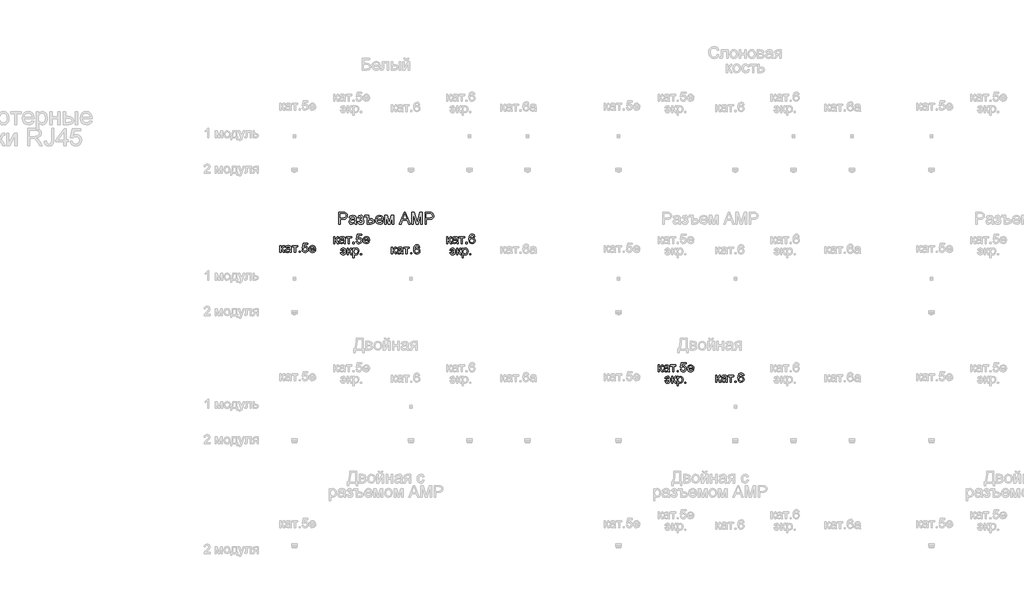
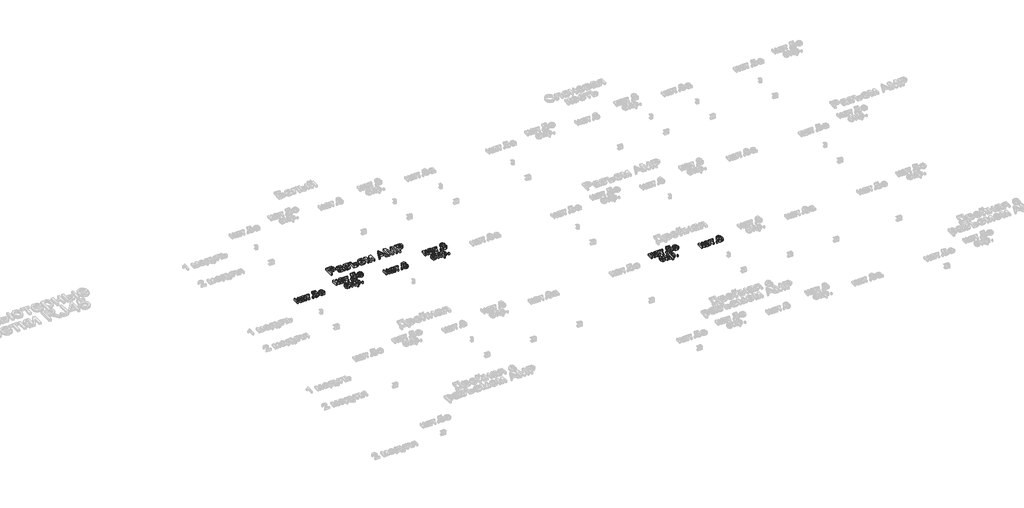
# One storey, part 26 of 47: 7 proxies.
"""IFC4 building model written with IfcOpenShell, lengths in millimetres."""

from ifc_helpers import new_model, si_unit, origin, origin_with_axes, place, context, project, spatial, polyline, outline, extrude, element, save

model = new_model("IFC4")

# Units and contexts
model_context = context("Model", 3, world=origin())
ifc_project = project(units=[si_unit("LENGTHUNIT", "METRE", prefix="MILLI")], contexts=[model_context])

# Site, building, storey
site = spatial("IfcSite", under=ifc_project)
building = spatial("IfcBuilding", under=site)
storey = spatial("IfcBuildingStorey", under=building, Name="Этаж 01", Elevation=0.0)

# Proxies
placement = place(None, origin())
element("IfcBuildingElementProxy", 1, Name="100 мм Arial", ObjectType="100 мм Arial", at=placement, inside=storey, context=model_context, shape_type="SweptSolid", body=[
    extrude(outline(polyline([(384.3904734, -21070.9026382), (384.3904734, -20970.4463281), (421.6201313, -20970.4463281), (436.6297168, -20971.4028213), (448.8311363, -20976.0994481), (456.7405992, -20985.8115327), (459.732706, -20999.5090057), (457.7124208, -21011.3486746), (451.6515649, -21021.2140434), (440.3177338, -21027.8727075), (422.4785227, -21030.0922622), (396.9475122, -21030.0922622), (396.9475122, -21070.9026382), (384.3904734, -21070.9026382)]), holes=[polyline([(396.9475122, -21017.5352234), (423.2142867, -21017.5352234), (441.7064883, -21012.9244358), (445.8083725, -21007.375549), (447.1756673, -20999.9504641), (443.9505685, -20989.5516664), (435.4770198, -20983.8617582), (422.9199811, -20983.0033668), (396.9475122, -20983.0033668), (396.9475122, -21017.5352234)])]), origin_with_axes(), (0.0, 0.0, 1.0), 20.0),
    extrude(outline(polyline([(522.5178999, -21061.4848591), (510.3410059, -21069.995196), (496.8887876, -21072.4722681), (486.3949537, -21070.982346), (478.6541033, -21066.5125797), (473.8808344, -21059.7251569), (472.2897448, -21051.2822651), (474.6932405, -21041.3494513), (481.0085481, -21034.1389642), (489.8009278, -21030.0186858), (500.6657094, -21028.1302249), (522.4443235, -21023.8137428), (522.5178999, -21021.0178397), (519.0598091, -21011.7472134), (505.1783952, -21008.1174444), (492.4742036, -21010.5332028), (486.4164134, -21019.1048533), (473.8593747, -21017.5352234), (479.2917655, -21005.2724903), (490.2301234, -20998.0865286), (506.797076, -20995.5604056), (522.0151278, -20997.792223), (530.6113038, -21003.3962921), (534.461802, -21011.9188917), (535.0749387, -21022.9063006), (535.0749387, -21038.5290226), (535.7126008, -21060.344425), (538.2141984, -21070.9026382), (525.6571596, -21070.9026382), (522.5178999, -21061.4848591)]), holes=[polyline([(522.5178999, -21036.3707816), (502.2598647, -21040.2212798), (491.4563968, -21042.2568935), (486.5635662, -21045.5678315), (484.8467836, -21050.3993484), (488.5869172, -21057.1929025), (499.5620634, -21059.9152293), (512.266255, -21056.9108597), (520.4577607, -21049.6390589), (522.4443235, -21039.9269742), (522.5178999, -21036.3707816)])]), origin_with_axes(), (0.0, 0.0, 1.0), 20.0),
    extrude(outline(polyline([(569.6067953, -21037.9404114), (569.6067953, -21025.3833727), (579.5150837, -21024.8928634), (584.5182788, -21022.2809012), (586.8727236, -21016.8239849), (583.7212012, -21010.4841519), (575.5910091, -21008.1174444), (567.1910368, -21010.4718891), (561.758646, -21017.5352234), (547.6319774, -21015.9655936), (557.074282, -21000.6617026), (574.3156848, -20995.5604056), (584.8125844, -20997.114707), (592.7588355, -21001.7776113), (597.7620306, -21008.5987567), (599.4297624, -21016.6277812), (597.0569235, -21024.4268795), (589.9384069, -21030.4601442), (598.2402772, -21038.283768), (600.9993922, -21049.540957), (599.248887, -21058.7839922), (593.9973716, -21066.1079095), (585.600465, -21070.8811784), (574.4137867, -21072.4722681), (563.472363, -21071.0007401), (555.0999819, -21066.5861561), (549.2966435, -21059.2285162), (546.0623476, -21048.9278204), (560.1890162, -21047.3581905), (565.8543989, -21056.6288168), (575.6155345, -21059.9152293), (584.7880589, -21056.7637069), (588.4423534, -21048.7070912), (586.1737478, -21042.1097407), (581.3422309, -21038.5780736), (572.0593419, -21037.8668351), (569.6067953, -21037.9404114)])), origin_with_axes(), (0.0, 0.0, 1.0), 20.0),
    extrude(outline(polyline([(610.4171713, -20997.1300355), (643.379398, -20997.1300355), (643.379398, -21025.3833727), (658.9530692, -21025.3833727), (673.2391533, -21027.044973), (682.9880262, -21032.0297741), (688.5982266, -21039.4242022), (690.4682934, -21048.3146837), (688.6472775, -21057.3921719), (683.1842299, -21064.6118561), (674.1649897, -21069.3299427), (661.6753959, -21070.9026382), (630.8223593, -21070.9026382), (630.8223593, -21009.6870742), (610.4171713, -21009.6870742), (610.4171713, -20997.1300355)]), holes=[polyline([(643.379398, -21058.3455994), (656.3043188, -21058.3455994), (672.9938987, -21055.929841), (677.9112547, -21048.1675309), (673.7051372, -21040.6136873), (657.9475251, -21037.9404114), (643.379398, -21037.9404114), (643.379398, -21058.3455994)])]), origin_with_axes(), (0.0, 0.0, 1.0), 20.0),
    extrude(outline(polyline([(756.2455942, -21048.9278204), (768.5573783, -21050.4974502), (764.1213345, -21059.7742079), (757.0426718, -21066.7087835), (747.4808056, -21071.0313969), (735.5951515, -21072.4722681), (720.8614776, -21069.9859989), (709.5245808, -21062.5271915), (702.2956996, -21050.5802237), (699.8860725, -21034.6294735), (702.320225, -21018.1422287), (709.6226826, -21005.8120505), (720.8062953, -20998.1233168), (734.883913, -20995.5604056), (748.5231379, -20998.1171855), (759.4216421, -21005.7875251), (766.5677498, -21018.0931778), (768.9497857, -21034.5558971), (768.8762093, -21037.9404114), (712.4431113, -21037.9404114), (714.6166807, -21047.3397964), (719.6658611, -21054.2498466), (726.9529903, -21058.4988836), (735.8404062, -21059.9152293), (748.1521903, -21057.2910044), (756.2455942, -21048.9278204)]), holes=[polyline([(712.4431113, -21025.3833727), (756.392747, -21025.3833727), (751.3650264, -21014.0035563), (744.0441747, -21009.5889724), (734.834862, -21008.1174444), (719.3715555, -21012.8140712), (714.5063161, -21018.30471), (712.4431113, -21025.3833727)])]), origin_with_axes(), (0.0, 0.0, 1.0), 20.0),
    extrude(outline(polyline([(781.5068245, -20997.1300355), (803.1137603, -20997.1300355), (819.766552, -21056.1873584), (837.7191934, -20997.1300355), (858.418687, -20997.1300355), (858.418687, -21070.9026382), (845.8616482, -21070.9026382), (845.8616482, -21011.5019587), (827.810905, -21070.9026382), (811.3297916, -21070.9026382), (794.0638633, -21008.6570046), (794.0638633, -21070.9026382), (781.5068245, -21070.9026382), (781.5068245, -20997.1300355)])), origin_with_axes(), (0.0, 0.0, 1.0), 20.0),
    extrude(outline(polyline([(906.3659737, -21070.9026382), (946.4651111, -20970.4463281), (957.1582145, -20970.4463281), (997.2573519, -21070.9026382), (983.9890746, -21070.9026382), (972.4866309, -21039.5100413), (931.1121692, -21039.5100413), (919.634251, -21070.9026382), (906.3659737, -21070.9026382)]), holes=[polyline([(935.7229569, -21026.9530025), (967.9003687, -21026.9530025), (958.8504716, -21002.2558579), (951.8116628, -20983.0033668), (945.5576689, -21000.0976169), (935.7229569, -21026.9530025)])]), origin_with_axes(), (0.0, 0.0, 1.0), 20.0),
    extrude(outline(polyline([(1010.672782, -21070.9026382), (1010.672782, -20970.4463281), (1032.2797179, -20970.4463281), (1052.8320587, -21041.2513494), (1056.9768625, -21056.0402056), (1061.4650228, -21040.0250761), (1081.6740071, -20970.4463281), (1103.2809429, -20970.4463281), (1103.2809429, -21070.9026382), (1090.7239042, -21070.9026382), (1090.7239042, -20983.0033668), (1065.4871993, -21070.9026382), (1048.4665257, -21070.9026382), (1023.2298208, -20983.0033668), (1023.2298208, -21070.9026382), (1010.672782, -21070.9026382)])), origin_with_axes(), (0.0, 0.0, 1.0), 20.0),
    extrude(outline(polyline([(1125.2557608, -21070.9026382), (1125.2557608, -20970.4463281), (1162.4854187, -20970.4463281), (1177.4950041, -20971.4028213), (1189.6964236, -20976.0994481), (1197.6058865, -20985.8115327), (1200.5979934, -20999.5090057), (1198.5777081, -21011.3486746), (1192.5168522, -21021.2140434), (1181.1830211, -21027.8727075), (1163.34381, -21030.0922622), (1137.8127996, -21030.0922622), (1137.8127996, -21070.9026382), (1125.2557608, -21070.9026382)]), holes=[polyline([(1137.8127996, -21017.5352234), (1164.079574, -21017.5352234), (1182.5717756, -21012.9244358), (1186.6736599, -21007.375549), (1188.0409546, -20999.9504641), (1184.8158558, -20989.5516664), (1176.3423072, -20983.8617582), (1163.7852684, -20983.0033668), (1137.8127996, -20983.0033668), (1137.8127996, -21017.5352234)])]), origin_with_axes(), (0.0, 0.0, 1.0), 20.0),
])
element("IfcBuildingElementProxy", 2, Name="80 мм Arial", ObjectType="80 мм Arial", at=placement, inside=storey, context=model_context, shape_type="SweptSolid", body=[
    extrude(outline(polyline([(-119.3935865, -21254.963684), (-109.3479555, -21254.963684), (-109.3479555, -21280.0777615), (-102.6181676, -21278.2726872), (-97.1048427, -21267.7561672), (-92.5234856, -21258.6817447), (-88.4816888, -21255.7288785), (-81.133859, -21254.963684), (-79.2110625, -21254.963684), (-79.2110625, -21265.0681761), (-81.918674, -21265.009315), (-86.8237672, -21266.0688151), (-90.2769529, -21272.6808809), (-94.3285599, -21279.8325069), (-100.0086579, -21283.3347434), (-93.6712774, -21287.2441028), (-87.4516192, -21295.4797544), (-76.6996547, -21313.9817662), (-88.1187119, -21313.9817662), (-98.6548522, -21295.8721618), (-103.9523529, -21288.2104062), (-109.3479555, -21286.3562809), (-109.3479555, -21313.9817662), (-119.3935865, -21313.9817662), (-119.3935865, -21254.963684)])), origin_with_axes(), (0.0, 0.0, 1.0), 20.0),
    extrude(outline(polyline([(-32.750019, -21306.4475429), (-42.4915343, -21313.2558124), (-53.2533089, -21315.2374701), (-67.8410563, -21310.4697194), (-72.9325431, -21298.2854677), (-71.0097465, -21290.3392166), (-65.9575005, -21284.570827), (-58.9235967, -21281.2746043), (-50.2317715, -21279.7638355), (-32.8088802, -21276.3106499), (-32.750019, -21274.0739274), (-35.5164916, -21266.6574263), (-46.6216228, -21263.7536111), (-56.7849761, -21265.6862179), (-61.6312082, -21272.5435383), (-71.6768392, -21271.2878344), (-67.3309266, -21261.4776478), (-58.5802402, -21255.7288785), (-45.3266782, -21253.7079801), (-33.1522367, -21255.4934341), (-26.2752959, -21259.9766893), (-23.1948974, -21266.7947689), (-22.704388, -21275.5846961), (-22.704388, -21288.0828737), (-22.1942583, -21305.5351956), (-20.1929803, -21313.9817662), (-30.2386113, -21313.9817662), (-32.750019, -21306.4475429)]), holes=[polyline([(-32.750019, -21286.3562809), (-48.9564472, -21289.4366795), (-57.5992215, -21291.0651704), (-61.513486, -21293.7139208), (-62.8869121, -21297.5791343), (-59.8948052, -21303.0139776), (-51.1146882, -21305.1918391), (-40.951335, -21302.7883434), (-34.3981304, -21296.9709027), (-32.8088802, -21289.201235), (-32.750019, -21286.3562809)])]), origin_with_axes(), (0.0, 0.0, 1.0), 20.0),
    extrude(outline(polyline([(-13.9144609, -21254.963684), (33.8022864, -21254.963684), (33.8022864, -21265.009315), (14.9667283, -21265.009315), (14.9667283, -21313.9817662), (4.9210973, -21313.9817662), (4.9210973, -21265.009315), (-13.9144609, -21265.009315), (-13.9144609, -21254.963684)])), origin_with_axes(), (0.0, 0.0, 1.0), 20.0),
    extrude(outline(polyline([(45.1036213, -21313.9817662), (45.1036213, -21303.9361352), (55.1492523, -21303.9361352), (55.1492523, -21313.9817662), (45.1036213, -21313.9817662)])), origin_with_axes(), (0.0, 0.0, 1.0), 20.0),
    extrude(outline(polyline([(71.4734027, -21292.6348003), (81.5190338, -21291.3790964), (86.58109, -21301.7288432), (97.0779896, -21305.1918391), (109.6742691, -21300.3750375), (114.1673346, -21287.5923644), (109.9587645, -21275.6631776), (97.2349526, -21271.2878344), (88.4155949, -21273.0340476), (82.7747376, -21277.5663538), (72.7291066, -21276.3106499), (81.5190338, -21234.872422), (120.4458539, -21234.872422), (120.4458539, -21244.918053), (89.6418682, -21244.918053), (85.3450065, -21267.0498338), (100.0406659, -21261.2422034), (109.4265619, -21263.0423726), (117.2183026, -21268.4428803), (122.4642998, -21276.6736268), (124.2129656, -21286.9645125), (122.6384306, -21297.0101435), (117.9148258, -21305.6038669), (108.8698338, -21312.8290693), (97.0387489, -21315.2374701), (87.1721537, -21313.6899131), (79.3117418, -21309.0472424), (73.9234968, -21301.849018), (71.4734027, -21292.6348003)])), origin_with_axes(), (0.0, 0.0, 1.0), 20.0),
    extrude(outline(polyline([(176.8348062, -21296.4019119), (186.6842334, -21297.6576158), (177.4724683, -21310.6266824), (160.314452, -21315.2374701), (148.5275129, -21313.2484548), (139.4579954, -21307.2814088), (133.6748905, -21297.7238346), (131.7471888, -21284.9632344), (133.6945109, -21271.7734386), (139.5364769, -21261.9092961), (148.4833671, -21255.7583091), (159.7454612, -21253.7079801), (170.6568412, -21255.753404), (179.3756445, -21261.8896757), (185.0925307, -21271.7341979), (186.9981594, -21284.9043733), (186.9392983, -21287.6119848), (141.7928198, -21287.6119848), (147.5710197, -21300.6595329), (160.5106558, -21305.1918391), (170.360083, -21303.0924591), (176.8348062, -21296.4019119)]), holes=[polyline([(141.7928198, -21277.5663538), (176.9525284, -21277.5663538), (172.9303519, -21268.4625007), (159.7062205, -21263.7536111), (147.3355752, -21267.5109126), (141.7928198, -21277.5663538)])]), origin_with_axes(), (0.0, 0.0, 1.0), 20.0),
])
element("IfcBuildingElementProxy", 3, Name="80 мм Arial", ObjectType="80 мм Arial", at=placement, inside=storey, context=model_context, shape_type="SweptSolid", body=[
    extrude(outline(polyline([(343.2827356, -21178.8197599), (353.3283666, -21178.8197599), (353.3283666, -21203.9338374), (360.0581546, -21202.1287631), (365.5714794, -21191.6122431), (370.1528365, -21182.5378206), (374.1946334, -21179.5849544), (381.5424631, -21178.8197599), (383.4652597, -21178.8197599), (383.4652597, -21188.924252), (380.7576482, -21188.8653909), (375.8525549, -21189.924891), (372.3993693, -21196.5369568), (368.3477622, -21203.6885828), (362.6676642, -21207.1908193), (369.0050447, -21211.1001787), (375.224703, -21219.3358303), (385.9766674, -21237.8378421), (374.5576103, -21237.8378421), (364.02147, -21219.7282377), (358.7239692, -21212.0664821), (353.3283666, -21210.2123568), (353.3283666, -21237.8378421), (343.2827356, -21237.8378421), (343.2827356, -21178.8197599)])), origin_with_axes(), (0.0, 0.0, 1.0), 20.0),
    extrude(outline(polyline([(429.9263031, -21230.3036188), (420.1847879, -21237.1118883), (409.4230133, -21239.093546), (394.8352659, -21234.3257953), (389.7437791, -21222.1415436), (391.6665756, -21214.1952925), (396.7188217, -21208.4269029), (403.7527254, -21205.1306802), (412.4445507, -21203.6199114), (429.867442, -21200.1667258), (429.9263031, -21197.9300033), (427.1598305, -21190.5135022), (416.0546994, -21187.609687), (405.8913461, -21189.5422938), (401.045114, -21196.3996142), (390.9994829, -21195.1439103), (395.3453956, -21185.3337237), (404.096082, -21179.5849544), (417.349644, -21177.564056), (429.5240855, -21179.34951), (436.4010262, -21183.8327652), (439.4814248, -21190.6508448), (439.9719341, -21199.440772), (439.9719341, -21211.9389496), (440.4820638, -21229.3912715), (442.4833419, -21237.8378421), (432.4377109, -21237.8378421), (429.9263031, -21230.3036188)]), holes=[polyline([(429.9263031, -21210.2123568), (413.719875, -21213.2927554), (405.0771006, -21214.9212463), (401.1628362, -21217.5699967), (399.7894101, -21221.4352102), (402.781517, -21226.8700535), (411.5616339, -21229.047915), (421.7249872, -21226.6444193), (428.2781918, -21220.8269786), (429.867442, -21213.0573109), (429.9263031, -21210.2123568)])]), origin_with_axes(), (0.0, 0.0, 1.0), 20.0),
    extrude(outline(polyline([(448.7618613, -21178.8197599), (496.4786086, -21178.8197599), (496.4786086, -21188.8653909), (477.6430504, -21188.8653909), (477.6430504, -21237.8378421), (467.5974194, -21237.8378421), (467.5974194, -21188.8653909), (448.7618613, -21188.8653909), (448.7618613, -21178.8197599)])), origin_with_axes(), (0.0, 0.0, 1.0), 20.0),
    extrude(outline(polyline([(507.7799435, -21237.8378421), (507.7799435, -21227.7922111), (517.8255745, -21227.7922111), (517.8255745, -21237.8378421), (507.7799435, -21237.8378421)])), origin_with_axes(), (0.0, 0.0, 1.0), 20.0),
    extrude(outline(polyline([(534.1497249, -21216.4908762), (544.1953559, -21215.2351723), (549.2574122, -21225.5849191), (559.7543118, -21229.047915), (572.3505913, -21224.2311134), (576.8436567, -21211.4484403), (572.6350867, -21199.5192535), (559.9112748, -21195.1439103), (551.0919171, -21196.8901235), (545.4510598, -21201.4224297), (535.4054288, -21200.1667258), (544.1953559, -21158.7284978), (583.1221761, -21158.7284978), (583.1221761, -21168.7741289), (552.3181904, -21168.7741289), (548.0213287, -21190.9059097), (562.7169881, -21185.0982793), (572.1028841, -21186.8984485), (579.8946247, -21192.2989562), (585.140622, -21200.5297027), (586.8892877, -21210.8205884), (585.3147528, -21220.8662194), (580.591148, -21229.4599428), (571.546156, -21236.6851452), (559.715071, -21239.093546), (549.8484759, -21237.545989), (541.9880639, -21232.9033183), (536.599819, -21225.7050939), (534.1497249, -21216.4908762)])), origin_with_axes(), (0.0, 0.0, 1.0), 20.0),
    extrude(outline(polyline([(639.5111283, -21220.2579878), (649.3605556, -21221.5136917), (640.1487904, -21234.4827583), (622.9907742, -21239.093546), (611.2038351, -21237.1045306), (602.1343176, -21231.1374847), (596.3512126, -21221.5799105), (594.423511, -21208.8193103), (596.370833, -21195.6295145), (602.2127991, -21185.7653719), (611.1596892, -21179.614385), (622.4217834, -21177.564056), (633.3331634, -21179.6094799), (642.0519666, -21185.7457516), (647.7688528, -21195.5902738), (649.6744816, -21208.7604492), (649.6156205, -21211.4680607), (604.469142, -21211.4680607), (610.2473419, -21224.5156088), (623.1869779, -21229.047915), (633.0364052, -21226.948535), (639.5111283, -21220.2579878)]), holes=[polyline([(604.469142, -21201.4224297), (639.6288506, -21201.4224297), (635.6066741, -21192.3185766), (622.3825426, -21187.609687), (610.0118974, -21191.3669885), (604.469142, -21201.4224297)])]), origin_with_axes(), (0.0, 0.0, 1.0), 20.0),
    extrude(outline(polyline([(418.6249682, -21299.0022839), (437.4605264, -21299.0022839), (432.91841, -21289.0253242), (423.3730985, -21285.1895413), (415.2306437, -21287.700949), (411.090745, -21295.2351723), (401.045114, -21293.9794684), (407.9416751, -21280.4119804), (422.764867, -21275.1439103), (433.0189644, -21277.1942393), (440.8646611, -21283.3452262), (445.8457833, -21293.0867415), (447.5061574, -21305.9086553), (446.1351838, -21318.6717079), (441.3944112, -21328.7075288), (433.6468164, -21335.0350991), (423.2553763, -21336.6734002), (414.3477269, -21335.2043248), (407.3236333, -21330.7970985), (399.7894101, -21315.3264343), (409.8350411, -21314.0707305), (414.1613334, -21323.4885095), (423.0984133, -21326.6277692), (433.0459424, -21322.2328057), (437.4605264, -21309.047915), (418.6249682, -21309.047915), (418.6249682, -21299.0022839)])), origin_with_axes(), (0.0, 0.0, 1.0), 20.0),
    extrude(outline(polyline([(458.8074923, -21276.3996142), (468.8531233, -21276.3996142), (468.8531233, -21301.5136917), (475.5829113, -21299.7086174), (481.0962361, -21289.1920974), (485.6775932, -21280.1176749), (489.7193901, -21277.1648087), (497.0672198, -21276.3996142), (498.9900164, -21276.3996142), (498.9900164, -21286.5041063), (496.2824049, -21286.4452452), (491.3773116, -21287.5047453), (487.9241259, -21294.116811), (483.8725189, -21301.268437), (478.1924209, -21304.7706736), (484.5298014, -21308.680033), (490.7494597, -21316.9156846), (501.5014241, -21335.4176964), (490.082367, -21335.4176964), (479.5462266, -21317.308092), (474.2487259, -21309.6463363), (468.8531233, -21307.7922111), (468.8531233, -21335.4176964), (458.8074923, -21335.4176964), (458.8074923, -21276.3996142)])), origin_with_axes(), (0.0, 0.0, 1.0), 20.0),
    extrude(outline(polyline([(507.7799435, -21358.0203662), (507.7799435, -21276.3996142), (517.8255745, -21276.3996142), (517.8255745, -21286.2490414), (524.7711866, -21277.9201931), (534.1497249, -21275.1439103), (546.883347, -21279.0287441), (555.2023852, -21289.9769123), (558.0080986, -21305.4573867), (554.8394083, -21321.7324861), (545.6374533, -21332.8179969), (532.9332618, -21336.6734002), (524.1923856, -21334.0933212), (517.8255745, -21327.5695471), (517.8255745, -21358.0203662), (507.7799435, -21358.0203662)]), holes=[polyline([(517.8255745, -21306.3795442), (522.1714871, -21321.6834352), (532.7174377, -21326.6277692), (543.4792123, -21321.5068519), (547.9624676, -21305.63397), (543.5871244, -21290.2908383), (533.1294655, -21285.1895413), (522.4657927, -21290.6145744), (517.8255745, -21306.3795442)])]), origin_with_axes(), (0.0, 0.0, 1.0), 20.0),
    extrude(outline(polyline([(571.8208412, -21335.4176964), (571.8208412, -21325.3720654), (581.8664722, -21325.3720654), (581.8664722, -21335.4176964), (571.8208412, -21335.4176964)])), origin_with_axes(), (0.0, 0.0, 1.0), 20.0),
])
element("IfcBuildingElementProxy", 4, Name="80 мм Arial", ObjectType="80 мм Arial", at=placement, inside=storey, context=model_context, shape_type="SweptSolid", body=[
    extrude(outline(polyline([(837.8748928, -21267.654338), (847.9205238, -21267.654338), (847.9205238, -21292.7684155), (854.6503118, -21290.9633412), (860.1636366, -21280.4468212), (864.7449937, -21271.3723987), (868.7867906, -21268.4195325), (876.1346203, -21267.654338), (878.0574169, -21267.654338), (878.0574169, -21277.7588301), (875.3498054, -21277.699969), (870.4447121, -21278.7594692), (866.9915264, -21285.3715349), (862.9399194, -21292.5231609), (857.2598214, -21296.0253975), (863.5972019, -21299.9347568), (869.8168602, -21308.1704084), (880.5688246, -21326.6724202), (869.1497675, -21326.6724202), (858.6136271, -21308.5628159), (853.3161264, -21300.9010602), (847.9205238, -21299.0469349), (847.9205238, -21326.6724202), (837.8748928, -21326.6724202), (837.8748928, -21267.654338)])), origin_with_axes(), (0.0, 0.0, 1.0), 20.0),
    extrude(outline(polyline([(924.5184603, -21319.1381969), (914.7769451, -21325.9464664), (904.0151704, -21327.9281241), (889.4274231, -21323.1603734), (884.3359362, -21310.9761218), (886.2587328, -21303.0298707), (891.3109789, -21297.261481), (898.3448826, -21293.9652583), (907.0367079, -21292.4544896), (924.4595992, -21289.0013039), (924.5184603, -21286.7645814), (921.7519877, -21279.3480804), (910.6468565, -21276.4442651), (900.4835033, -21278.3768719), (895.6372711, -21285.2341923), (885.5916401, -21283.9784884), (889.9375528, -21274.1683019), (898.6882391, -21268.4195325), (911.9418012, -21266.3986341), (924.1162427, -21268.1840881), (930.9931834, -21272.6673433), (934.073582, -21279.485423), (934.5640913, -21288.2753501), (934.5640913, -21300.7735278), (935.074221, -21318.2258496), (937.0754991, -21326.6724202), (927.0298681, -21326.6724202), (924.5184603, -21319.1381969)]), holes=[polyline([(924.5184603, -21299.0469349), (908.3120321, -21302.1273335), (899.6692578, -21303.7558245), (895.7549934, -21306.4045748), (894.3815673, -21310.2697883), (897.3736742, -21315.7046317), (906.1537911, -21317.8824931), (916.3171444, -21315.4789974), (922.870349, -21309.6615568), (924.4595992, -21301.891889), (924.5184603, -21299.0469349)])]), origin_with_axes(), (0.0, 0.0, 1.0), 20.0),
    extrude(outline(polyline([(943.3540185, -21267.654338), (991.0707658, -21267.654338), (991.0707658, -21277.699969), (972.2352076, -21277.699969), (972.2352076, -21326.6724202), (962.1895766, -21326.6724202), (962.1895766, -21277.699969), (943.3540185, -21277.699969), (943.3540185, -21267.654338)])), origin_with_axes(), (0.0, 0.0, 1.0), 20.0),
    extrude(outline(polyline([(1002.3721007, -21326.6724202), (1002.3721007, -21316.6267892), (1012.4177317, -21316.6267892), (1012.4177317, -21326.6724202), (1002.3721007, -21326.6724202)])), origin_with_axes(), (0.0, 0.0, 1.0), 20.0),
    extrude(outline(polyline([(1080.225741, -21267.654338), (1070.18011, -21268.9100419), (1066.3737576, -21260.5321426), (1056.3085063, -21256.3530031), (1047.2438939, -21258.7859294), (1040.3865735, -21267.919213), (1037.5318092, -21285.8228035), (1046.3904077, -21277.8078811), (1057.3680064, -21275.1885613), (1066.6484429, -21276.9789203), (1074.437731, -21282.3499974), (1079.7205164, -21290.5562185), (1081.4814449, -21300.8520092), (1078.1656019, -21314.7138028), (1069.0421284, -21324.5239894), (1055.876858, -21327.9281241), (1044.4798738, -21325.6717812), (1035.4029987, -21318.9027525), (1029.4653833, -21306.9539453), (1027.4861782, -21289.1582669), (1029.68366, -21269.1503914), (1036.2761053, -21255.4700863), (1045.2769515, -21248.5980506), (1056.9363582, -21246.3073721), (1065.7508108, -21247.724944), (1072.80924, -21251.9776599), (1080.225741, -21267.654338)]), holes=[polyline([(1037.5318092, -21300.6950463), (1039.8568234, -21309.3966817), (1046.0372409, -21315.7144418), (1055.0920431, -21317.8824931), (1066.9329383, -21313.3894276), (1071.4358139, -21301.1855556), (1066.9917994, -21289.5016234), (1054.6800153, -21285.2341923), (1042.5251942, -21289.5016234), (1037.5318092, -21300.6950463)])]), origin_with_axes(), (0.0, 0.0, 1.0), 20.0),
])
element("IfcBuildingElementProxy", 5, Name="80 мм Arial", ObjectType="80 мм Arial", at=placement, inside=storey, context=model_context, shape_type="SweptSolid", body=[
    extrude(outline(polyline([(1310.9396889, -21178.8197599), (1320.9853199, -21178.8197599), (1320.9853199, -21203.9338374), (1327.7151079, -21202.1287631), (1333.2284327, -21191.6122431), (1337.8097899, -21182.5378206), (1341.8515867, -21179.5849544), (1349.1994164, -21178.8197599), (1351.122213, -21178.8197599), (1351.122213, -21188.924252), (1348.4146015, -21188.8653909), (1343.5095082, -21189.924891), (1340.0563226, -21196.5369568), (1336.0047155, -21203.6885828), (1330.3246175, -21207.1908193), (1336.661998, -21211.1001787), (1342.8816563, -21219.3358303), (1353.6336207, -21237.8378421), (1342.2145636, -21237.8378421), (1331.6784233, -21219.7282377), (1326.3809225, -21212.0664821), (1320.9853199, -21210.2123568), (1320.9853199, -21237.8378421), (1310.9396889, -21237.8378421), (1310.9396889, -21178.8197599)])), origin_with_axes(), (0.0, 0.0, 1.0), 20.0),
    extrude(outline(polyline([(1397.5832564, -21230.3036188), (1387.8417412, -21237.1118883), (1377.0799666, -21239.093546), (1362.4922192, -21234.3257953), (1357.4007324, -21222.1415436), (1359.3235289, -21214.1952925), (1364.375775, -21208.4269029), (1371.4096787, -21205.1306802), (1380.101504, -21203.6199114), (1397.5243953, -21200.1667258), (1397.5832564, -21197.9300033), (1394.8167838, -21190.5135022), (1383.7116527, -21187.609687), (1373.5482994, -21189.5422938), (1368.7020673, -21196.3996142), (1358.6564362, -21195.1439103), (1363.0023489, -21185.3337237), (1371.7530353, -21179.5849544), (1385.0065973, -21177.564056), (1397.1810388, -21179.34951), (1404.0579795, -21183.8327652), (1407.1383781, -21190.6508448), (1407.6288874, -21199.440772), (1407.6288874, -21211.9389496), (1408.1390171, -21229.3912715), (1410.1402952, -21237.8378421), (1400.0946642, -21237.8378421), (1397.5832564, -21230.3036188)]), holes=[polyline([(1397.5832564, -21210.2123568), (1381.3768283, -21213.2927554), (1372.7340539, -21214.9212463), (1368.8197895, -21217.5699967), (1367.4463634, -21221.4352102), (1370.4384703, -21226.8700535), (1379.2185872, -21229.047915), (1389.3819405, -21226.6444193), (1395.9351451, -21220.8269786), (1397.5243953, -21213.0573109), (1397.5832564, -21210.2123568)])]), origin_with_axes(), (0.0, 0.0, 1.0), 20.0),
    extrude(outline(polyline([(1416.4188146, -21178.8197599), (1464.1355619, -21178.8197599), (1464.1355619, -21188.8653909), (1445.3000037, -21188.8653909), (1445.3000037, -21237.8378421), (1435.2543727, -21237.8378421), (1435.2543727, -21188.8653909), (1416.4188146, -21188.8653909), (1416.4188146, -21178.8197599)])), origin_with_axes(), (0.0, 0.0, 1.0), 20.0),
    extrude(outline(polyline([(1475.4368968, -21237.8378421), (1475.4368968, -21227.7922111), (1485.4825278, -21227.7922111), (1485.4825278, -21237.8378421), (1475.4368968, -21237.8378421)])), origin_with_axes(), (0.0, 0.0, 1.0), 20.0),
    extrude(outline(polyline([(1553.2905372, -21178.8197599), (1543.2449061, -21180.0754638), (1539.4385538, -21171.6975645), (1529.3733024, -21167.518425), (1520.30869, -21169.9513512), (1513.4513696, -21179.0846349), (1510.5966053, -21196.9882253), (1519.4552038, -21188.9733029), (1530.4328025, -21186.3539831), (1539.713239, -21188.1443422), (1547.5025271, -21193.5154193), (1552.7853126, -21201.7216404), (1554.546241, -21212.0174311), (1551.230398, -21225.8792247), (1542.1069245, -21235.6894112), (1528.9416542, -21239.093546), (1517.54467, -21236.8372031), (1508.4677949, -21230.0681744), (1502.5301795, -21218.1193672), (1500.5509743, -21200.3236888), (1502.7484561, -21180.3158133), (1509.3409015, -21166.6355082), (1518.3417476, -21159.7634725), (1530.0011543, -21157.472794), (1538.8156069, -21158.8903659), (1545.8740361, -21163.1430818), (1553.2905372, -21178.8197599)]), holes=[polyline([(1510.5966053, -21211.8604681), (1512.9216196, -21220.5621036), (1519.1020371, -21226.8798637), (1528.1568392, -21229.047915), (1539.9977344, -21224.5548495), (1544.50061, -21212.3509775), (1540.0565955, -21200.6670453), (1527.7448114, -21196.3996142), (1515.5899903, -21200.6670453), (1510.5966053, -21211.8604681)])]), origin_with_axes(), (0.0, 0.0, 1.0), 20.0),
    extrude(outline(polyline([(1355.5171766, -21299.0022839), (1374.3527347, -21299.0022839), (1369.8106183, -21289.0253242), (1360.2653068, -21285.1895413), (1352.122852, -21287.700949), (1347.9829533, -21295.2351723), (1337.9373223, -21293.9794684), (1344.8338834, -21280.4119804), (1359.6570753, -21275.1439103), (1369.9111727, -21277.1942393), (1377.7568694, -21283.3452262), (1382.7379916, -21293.0867415), (1384.3983657, -21305.9086553), (1383.0273922, -21318.6717079), (1378.2866195, -21328.7075288), (1370.5390247, -21335.0350991), (1360.1475846, -21336.6734002), (1351.2399352, -21335.2043248), (1344.2158417, -21330.7970985), (1336.6816184, -21315.3264343), (1346.7272494, -21314.0707305), (1351.0535417, -21323.4885095), (1359.9906216, -21326.6277692), (1369.9381508, -21322.2328057), (1374.3527347, -21309.047915), (1355.5171766, -21309.047915), (1355.5171766, -21299.0022839)])), origin_with_axes(), (0.0, 0.0, 1.0), 20.0),
    extrude(outline(polyline([(1395.6997006, -21276.3996142), (1405.7453316, -21276.3996142), (1405.7453316, -21301.5136917), (1412.4751196, -21299.7086174), (1417.9884444, -21289.1920974), (1422.5698015, -21280.1176749), (1426.6115984, -21277.1648087), (1433.9594281, -21276.3996142), (1435.8822247, -21276.3996142), (1435.8822247, -21286.5041063), (1433.1746132, -21286.4452452), (1428.2695199, -21287.5047453), (1424.8163343, -21294.116811), (1420.7647272, -21301.268437), (1415.0846292, -21304.7706736), (1421.4220097, -21308.680033), (1427.641668, -21316.9156846), (1438.3936324, -21335.4176964), (1426.9745753, -21335.4176964), (1416.438435, -21317.308092), (1411.1409342, -21309.6463363), (1405.7453316, -21307.7922111), (1405.7453316, -21335.4176964), (1395.6997006, -21335.4176964), (1395.6997006, -21276.3996142)])), origin_with_axes(), (0.0, 0.0, 1.0), 20.0),
    extrude(outline(polyline([(1444.6721518, -21358.0203662), (1444.6721518, -21276.3996142), (1454.7177828, -21276.3996142), (1454.7177828, -21286.2490414), (1461.6633949, -21277.9201931), (1471.0419332, -21275.1439103), (1483.7755553, -21279.0287441), (1492.0945935, -21289.9769123), (1494.9003069, -21305.4573867), (1491.7316166, -21321.7324861), (1482.5296617, -21332.8179969), (1469.8254701, -21336.6734002), (1461.0845939, -21334.0933212), (1454.7177828, -21327.5695471), (1454.7177828, -21358.0203662), (1444.6721518, -21358.0203662)]), holes=[polyline([(1454.7177828, -21306.3795442), (1459.0636955, -21321.6834352), (1469.609646, -21326.6277692), (1480.3714206, -21321.5068519), (1484.8546759, -21305.63397), (1480.4793327, -21290.2908383), (1470.0216738, -21285.1895413), (1459.3580011, -21290.6145744), (1454.7177828, -21306.3795442)])]), origin_with_axes(), (0.0, 0.0, 1.0), 20.0),
    extrude(outline(polyline([(1508.7130495, -21335.4176964), (1508.7130495, -21325.3720654), (1518.7586805, -21325.3720654), (1518.7586805, -21335.4176964), (1508.7130495, -21335.4176964)])), origin_with_axes(), (0.0, 0.0, 1.0), 20.0),
])
element("IfcBuildingElementProxy", 6, Name="80 мм Arial", ObjectType="80 мм Arial", at=placement, inside=storey, context=model_context, shape_type="SweptSolid", body=[
    extrude(outline(polyline([(3123.2827356, -22278.8197599), (3133.3283666, -22278.8197599), (3133.3283666, -22303.9338374), (3140.0581546, -22302.1287631), (3145.5714794, -22291.6122431), (3150.1528365, -22282.5378206), (3154.1946334, -22279.5849544), (3161.5424631, -22278.8197599), (3163.4652597, -22278.8197599), (3163.4652597, -22288.924252), (3160.7576482, -22288.8653909), (3155.8525549, -22289.924891), (3152.3993693, -22296.5369568), (3148.3477622, -22303.6885828), (3142.6676642, -22307.1908193), (3149.0050447, -22311.1001787), (3155.224703, -22319.3358303), (3165.9766674, -22337.8378421), (3154.5576103, -22337.8378421), (3144.02147, -22319.7282377), (3138.7239692, -22312.0664821), (3133.3283666, -22310.2123568), (3133.3283666, -22337.8378421), (3123.2827356, -22337.8378421), (3123.2827356, -22278.8197599)])), origin_with_axes(), (0.0, 0.0, 1.0), 20.0),
    extrude(outline(polyline([(3209.9263031, -22330.3036188), (3200.1847879, -22337.1118883), (3189.4230133, -22339.093546), (3174.8352659, -22334.3257953), (3169.7437791, -22322.1415436), (3171.6665756, -22314.1952925), (3176.7188217, -22308.4269029), (3183.7527254, -22305.1306802), (3192.4445507, -22303.6199114), (3209.867442, -22300.1667258), (3209.9263031, -22297.9300033), (3207.1598305, -22290.5135022), (3196.0546994, -22287.609687), (3185.8913461, -22289.5422938), (3181.045114, -22296.3996142), (3170.9994829, -22295.1439103), (3175.3453956, -22285.3337237), (3184.096082, -22279.5849544), (3197.349644, -22277.564056), (3209.5240855, -22279.34951), (3216.4010262, -22283.8327652), (3219.4814248, -22290.6508448), (3219.9719341, -22299.440772), (3219.9719341, -22311.9389496), (3220.4820638, -22329.3912715), (3222.4833419, -22337.8378421), (3212.4377109, -22337.8378421), (3209.9263031, -22330.3036188)]), holes=[polyline([(3209.9263031, -22310.2123568), (3193.719875, -22313.2927554), (3185.0771006, -22314.9212463), (3181.1628362, -22317.5699967), (3179.7894101, -22321.4352102), (3182.781517, -22326.8700535), (3191.5616339, -22329.047915), (3201.7249872, -22326.6444193), (3208.2781918, -22320.8269786), (3209.867442, -22313.0573109), (3209.9263031, -22310.2123568)])]), origin_with_axes(), (0.0, 0.0, 1.0), 20.0),
    extrude(outline(polyline([(3228.7618613, -22278.8197599), (3276.4786086, -22278.8197599), (3276.4786086, -22288.8653909), (3257.6430504, -22288.8653909), (3257.6430504, -22337.8378421), (3247.5974194, -22337.8378421), (3247.5974194, -22288.8653909), (3228.7618613, -22288.8653909), (3228.7618613, -22278.8197599)])), origin_with_axes(), (0.0, 0.0, 1.0), 20.0),
    extrude(outline(polyline([(3287.7799435, -22337.8378421), (3287.7799435, -22327.7922111), (3297.8255745, -22327.7922111), (3297.8255745, -22337.8378421), (3287.7799435, -22337.8378421)])), origin_with_axes(), (0.0, 0.0, 1.0), 20.0),
    extrude(outline(polyline([(3314.1497249, -22316.4908762), (3324.1953559, -22315.2351723), (3329.2574122, -22325.5849191), (3339.7543118, -22329.047915), (3352.3505913, -22324.2311134), (3356.8436567, -22311.4484403), (3352.6350867, -22299.5192535), (3339.9112748, -22295.1439103), (3331.0919171, -22296.8901235), (3325.4510598, -22301.4224297), (3315.4054288, -22300.1667258), (3324.1953559, -22258.7284978), (3363.1221761, -22258.7284978), (3363.1221761, -22268.7741289), (3332.3181904, -22268.7741289), (3328.0213287, -22290.9059097), (3342.7169881, -22285.0982793), (3352.1028841, -22286.8984485), (3359.8946247, -22292.2989562), (3365.140622, -22300.5297027), (3366.8892877, -22310.8205884), (3365.3147528, -22320.8662194), (3360.591148, -22329.4599428), (3351.546156, -22336.6851452), (3339.715071, -22339.093546), (3329.8484759, -22337.545989), (3321.9880639, -22332.9033183), (3316.599819, -22325.7050939), (3314.1497249, -22316.4908762)])), origin_with_axes(), (0.0, 0.0, 1.0), 20.0),
    extrude(outline(polyline([(3419.5111283, -22320.2579878), (3429.3605556, -22321.5136917), (3420.1487904, -22334.4827583), (3402.9907742, -22339.093546), (3391.2038351, -22337.1045306), (3382.1343176, -22331.1374847), (3376.3512126, -22321.5799105), (3374.423511, -22308.8193103), (3376.370833, -22295.6295145), (3382.2127991, -22285.7653719), (3391.1596892, -22279.614385), (3402.4217834, -22277.564056), (3413.3331634, -22279.6094799), (3422.0519666, -22285.7457516), (3427.7688528, -22295.5902738), (3429.6744816, -22308.7604492), (3429.6156205, -22311.4680607), (3384.469142, -22311.4680607), (3390.2473419, -22324.5156088), (3403.1869779, -22329.047915), (3413.0364052, -22326.948535), (3419.5111283, -22320.2579878)]), holes=[polyline([(3384.469142, -22301.4224297), (3419.6288506, -22301.4224297), (3415.6066741, -22292.3185766), (3402.3825426, -22287.609687), (3390.0118974, -22291.3669885), (3384.469142, -22301.4224297)])]), origin_with_axes(), (0.0, 0.0, 1.0), 20.0),
    extrude(outline(polyline([(3198.6249682, -22399.0022839), (3217.4605264, -22399.0022839), (3212.91841, -22389.0253242), (3203.3730985, -22385.1895413), (3195.2306437, -22387.700949), (3191.090745, -22395.2351723), (3181.045114, -22393.9794684), (3187.9416751, -22380.4119804), (3202.764867, -22375.1439103), (3213.0189644, -22377.1942393), (3220.8646611, -22383.3452262), (3225.8457833, -22393.0867415), (3227.5061574, -22405.9086553), (3226.1351838, -22418.6717079), (3221.3944112, -22428.7075288), (3213.6468164, -22435.0350991), (3203.2553763, -22436.6734002), (3194.3477269, -22435.2043248), (3187.3236333, -22430.7970985), (3179.7894101, -22415.3264343), (3189.8350411, -22414.0707305), (3194.1613334, -22423.4885095), (3203.0984133, -22426.6277692), (3213.0459424, -22422.2328057), (3217.4605264, -22409.047915), (3198.6249682, -22409.047915), (3198.6249682, -22399.0022839)])), origin_with_axes(), (0.0, 0.0, 1.0), 20.0),
    extrude(outline(polyline([(3238.8074923, -22376.3996142), (3248.8531233, -22376.3996142), (3248.8531233, -22401.5136917), (3255.5829113, -22399.7086174), (3261.0962361, -22389.1920974), (3265.6775932, -22380.1176749), (3269.7193901, -22377.1648087), (3277.0672198, -22376.3996142), (3278.9900164, -22376.3996142), (3278.9900164, -22386.5041063), (3276.2824049, -22386.4452452), (3271.3773116, -22387.5047453), (3267.9241259, -22394.116811), (3263.8725189, -22401.268437), (3258.1924209, -22404.7706736), (3264.5298014, -22408.680033), (3270.7494597, -22416.9156846), (3281.5014241, -22435.4176964), (3270.082367, -22435.4176964), (3259.5462266, -22417.308092), (3254.2487259, -22409.6463363), (3248.8531233, -22407.7922111), (3248.8531233, -22435.4176964), (3238.8074923, -22435.4176964), (3238.8074923, -22376.3996142)])), origin_with_axes(), (0.0, 0.0, 1.0), 20.0),
    extrude(outline(polyline([(3287.7799435, -22458.0203662), (3287.7799435, -22376.3996142), (3297.8255745, -22376.3996142), (3297.8255745, -22386.2490414), (3304.7711866, -22377.9201931), (3314.1497249, -22375.1439103), (3326.883347, -22379.0287441), (3335.2023852, -22389.9769123), (3338.0080986, -22405.4573867), (3334.8394083, -22421.7324861), (3325.6374533, -22432.8179969), (3312.9332618, -22436.6734002), (3304.1923856, -22434.0933212), (3297.8255745, -22427.5695471), (3297.8255745, -22458.0203662), (3287.7799435, -22458.0203662)]), holes=[polyline([(3297.8255745, -22406.3795442), (3302.1714871, -22421.6834352), (3312.7174377, -22426.6277692), (3323.4792123, -22421.5068519), (3327.9624676, -22405.63397), (3323.5871244, -22390.2908383), (3313.1294655, -22385.1895413), (3302.4657927, -22390.6145744), (3297.8255745, -22406.3795442)])]), origin_with_axes(), (0.0, 0.0, 1.0), 20.0),
    extrude(outline(polyline([(3351.8208412, -22435.4176964), (3351.8208412, -22425.3720654), (3361.8664722, -22425.3720654), (3361.8664722, -22435.4176964), (3351.8208412, -22435.4176964)])), origin_with_axes(), (0.0, 0.0, 1.0), 20.0),
])
element("IfcBuildingElementProxy", 7, Name="80 мм Arial", ObjectType="80 мм Arial", at=placement, inside=storey, context=model_context, shape_type="SweptSolid", body=[
    extrude(outline(polyline([(3617.8748928, -22367.654338), (3627.9205238, -22367.654338), (3627.9205238, -22392.7684155), (3634.6503118, -22390.9633412), (3640.1636366, -22380.4468212), (3644.7449937, -22371.3723987), (3648.7867906, -22368.4195325), (3656.1346203, -22367.654338), (3658.0574169, -22367.654338), (3658.0574169, -22377.7588301), (3655.3498054, -22377.699969), (3650.4447121, -22378.7594692), (3646.9915264, -22385.3715349), (3642.9399194, -22392.5231609), (3637.2598214, -22396.0253975), (3643.5972019, -22399.9347568), (3649.8168602, -22408.1704084), (3660.5688246, -22426.6724202), (3649.1497675, -22426.6724202), (3638.6136271, -22408.5628159), (3633.3161264, -22400.9010602), (3627.9205238, -22399.0469349), (3627.9205238, -22426.6724202), (3617.8748928, -22426.6724202), (3617.8748928, -22367.654338)])), origin_with_axes(), (0.0, 0.0, 1.0), 20.0),
    extrude(outline(polyline([(3704.5184603, -22419.1381969), (3694.7769451, -22425.9464664), (3684.0151704, -22427.9281241), (3669.4274231, -22423.1603734), (3664.3359362, -22410.9761218), (3666.2587328, -22403.0298707), (3671.3109789, -22397.261481), (3678.3448826, -22393.9652583), (3687.0367079, -22392.4544896), (3704.4595992, -22389.0013039), (3704.5184603, -22386.7645814), (3701.7519877, -22379.3480804), (3690.6468565, -22376.4442651), (3680.4835033, -22378.3768719), (3675.6372711, -22385.2341923), (3665.5916401, -22383.9784884), (3669.9375528, -22374.1683019), (3678.6882391, -22368.4195325), (3691.9418012, -22366.3986341), (3704.1162427, -22368.1840881), (3710.9931834, -22372.6673433), (3714.073582, -22379.485423), (3714.5640913, -22388.2753501), (3714.5640913, -22400.7735278), (3715.074221, -22418.2258496), (3717.0754991, -22426.6724202), (3707.0298681, -22426.6724202), (3704.5184603, -22419.1381969)]), holes=[polyline([(3704.5184603, -22399.0469349), (3688.3120321, -22402.1273335), (3679.6692578, -22403.7558245), (3675.7549934, -22406.4045748), (3674.3815673, -22410.2697883), (3677.3736742, -22415.7046317), (3686.1537911, -22417.8824931), (3696.3171444, -22415.4789974), (3702.870349, -22409.6615568), (3704.4595992, -22401.891889), (3704.5184603, -22399.0469349)])]), origin_with_axes(), (0.0, 0.0, 1.0), 20.0),
    extrude(outline(polyline([(3723.3540185, -22367.654338), (3771.0707658, -22367.654338), (3771.0707658, -22377.699969), (3752.2352076, -22377.699969), (3752.2352076, -22426.6724202), (3742.1895766, -22426.6724202), (3742.1895766, -22377.699969), (3723.3540185, -22377.699969), (3723.3540185, -22367.654338)])), origin_with_axes(), (0.0, 0.0, 1.0), 20.0),
    extrude(outline(polyline([(3782.3721007, -22426.6724202), (3782.3721007, -22416.6267892), (3792.4177317, -22416.6267892), (3792.4177317, -22426.6724202), (3782.3721007, -22426.6724202)])), origin_with_axes(), (0.0, 0.0, 1.0), 20.0),
    extrude(outline(polyline([(3860.225741, -22367.654338), (3850.18011, -22368.9100419), (3846.3737576, -22360.5321426), (3836.3085063, -22356.3530031), (3827.2438939, -22358.7859294), (3820.3865735, -22367.919213), (3817.5318092, -22385.8228035), (3826.3904077, -22377.8078811), (3837.3680064, -22375.1885613), (3846.6484429, -22376.9789203), (3854.437731, -22382.3499974), (3859.7205164, -22390.5562185), (3861.4814449, -22400.8520092), (3858.1656019, -22414.7138028), (3849.0421284, -22424.5239894), (3835.876858, -22427.9281241), (3824.4798738, -22425.6717812), (3815.4029987, -22418.9027525), (3809.4653833, -22406.9539453), (3807.4861782, -22389.1582669), (3809.68366, -22369.1503914), (3816.2761053, -22355.4700863), (3825.2769515, -22348.5980506), (3836.9363582, -22346.3073721), (3845.7508108, -22347.724944), (3852.80924, -22351.9776599), (3860.225741, -22367.654338)]), holes=[polyline([(3817.5318092, -22400.6950463), (3819.8568234, -22409.3966817), (3826.0372409, -22415.7144418), (3835.0920431, -22417.8824931), (3846.9329383, -22413.3894276), (3851.4358139, -22401.1855556), (3846.9917994, -22389.5016234), (3834.6800153, -22385.2341923), (3822.5251942, -22389.5016234), (3817.5318092, -22400.6950463)])]), origin_with_axes(), (0.0, 0.0, 1.0), 20.0),
])

save(model, "model.ifc")
